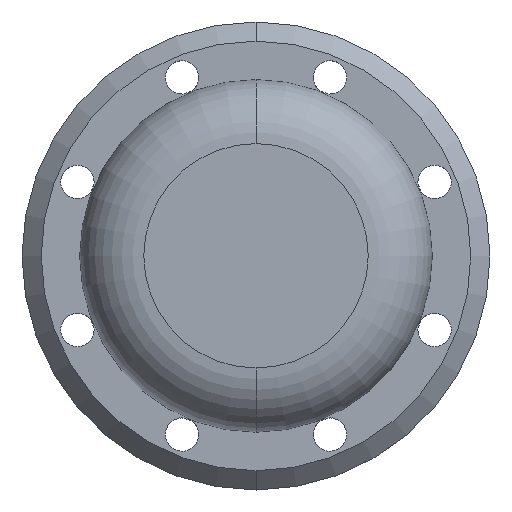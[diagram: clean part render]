
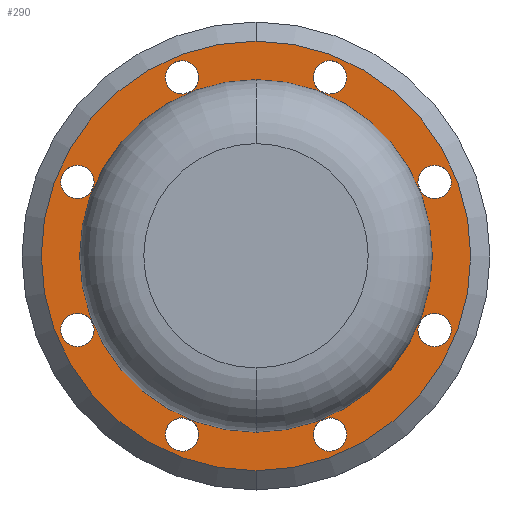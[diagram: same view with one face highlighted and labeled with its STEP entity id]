
A CAD part, top view. The second image highlights one B-rep face of the part: STEP entity #290.
In plain terms, the highlighted planar face has unit normal (0, 0, 1).
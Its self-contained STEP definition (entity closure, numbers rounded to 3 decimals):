
#60=FACE_BOUND('',#503,.F.);
#61=FACE_BOUND('',#504,.F.);
#62=FACE_BOUND('',#505,.F.);
#63=FACE_BOUND('',#506,.F.);
#64=FACE_BOUND('',#507,.F.);
#65=FACE_BOUND('',#508,.F.);
#66=FACE_BOUND('',#509,.F.);
#67=FACE_BOUND('',#510,.F.);
#68=FACE_BOUND('',#511,.F.);
#83=PLANE('',#2597);
#290=ADVANCED_FACE('',(#60,#61,#62,#63,#64,#65,#66,#67,#68,#394),#83,.T.);
#394=FACE_OUTER_BOUND('',#512,.F.);
#503=EDGE_LOOP('',(#687,#688));
#504=EDGE_LOOP('',(#689,#690));
#505=EDGE_LOOP('',(#691,#692));
#506=EDGE_LOOP('',(#693,#694));
#507=EDGE_LOOP('',(#695,#696));
#508=EDGE_LOOP('',(#697,#698));
#509=EDGE_LOOP('',(#699,#700));
#510=EDGE_LOOP('',(#701,#702));
#511=EDGE_LOOP('',(#703,#704));
#512=EDGE_LOOP('',(#705,#706));
#687=ORIENTED_EDGE('',*,*,#1940,.T.);
#688=ORIENTED_EDGE('',*,*,#1937,.T.);
#689=ORIENTED_EDGE('',*,*,#1954,.T.);
#690=ORIENTED_EDGE('',*,*,#1951,.T.);
#691=ORIENTED_EDGE('',*,*,#1968,.T.);
#692=ORIENTED_EDGE('',*,*,#1965,.T.);
#693=ORIENTED_EDGE('',*,*,#1982,.T.);
#694=ORIENTED_EDGE('',*,*,#1979,.T.);
#695=ORIENTED_EDGE('',*,*,#1904,.T.);
#696=ORIENTED_EDGE('',*,*,#1927,.T.);
#697=ORIENTED_EDGE('',*,*,#1975,.T.);
#698=ORIENTED_EDGE('',*,*,#1972,.T.);
#699=ORIENTED_EDGE('',*,*,#1961,.T.);
#700=ORIENTED_EDGE('',*,*,#1958,.T.);
#701=ORIENTED_EDGE('',*,*,#1947,.T.);
#702=ORIENTED_EDGE('',*,*,#1944,.T.);
#703=ORIENTED_EDGE('',*,*,#1933,.T.);
#704=ORIENTED_EDGE('',*,*,#1930,.T.);
#705=ORIENTED_EDGE('',*,*,#2008,.F.);
#706=ORIENTED_EDGE('',*,*,#1990,.F.);
#1904=EDGE_CURVE('',#2409,#2408,#2142,.T.);
#1927=EDGE_CURVE('',#2408,#2409,#2159,.T.);
#1930=EDGE_CURVE('',#2393,#2392,#2162,.T.);
#1933=EDGE_CURVE('',#2392,#2393,#2165,.T.);
#1937=EDGE_CURVE('',#2386,#2385,#2169,.T.);
#1940=EDGE_CURVE('',#2385,#2386,#2172,.T.);
#1944=EDGE_CURVE('',#2380,#2379,#2176,.T.);
#1947=EDGE_CURVE('',#2379,#2380,#2179,.T.);
#1951=EDGE_CURVE('',#2374,#2373,#2183,.T.);
#1954=EDGE_CURVE('',#2373,#2374,#2186,.T.);
#1958=EDGE_CURVE('',#2368,#2367,#2190,.T.);
#1961=EDGE_CURVE('',#2367,#2368,#2193,.T.);
#1965=EDGE_CURVE('',#2361,#2360,#2197,.T.);
#1968=EDGE_CURVE('',#2360,#2361,#2200,.T.);
#1972=EDGE_CURVE('',#2355,#2354,#2204,.T.);
#1975=EDGE_CURVE('',#2354,#2355,#2207,.T.);
#1979=EDGE_CURVE('',#2349,#2348,#2211,.T.);
#1982=EDGE_CURVE('',#2348,#2349,#2214,.T.);
#1990=EDGE_CURVE('',#2339,#2338,#2222,.T.);
#2008=EDGE_CURVE('',#2338,#2339,#2230,.T.);
#2142=CIRCLE('',#2454,27.5);
#2159=CIRCLE('',#2471,27.5);
#2162=CIRCLE('',#2474,2.6);
#2165=CIRCLE('',#2477,2.6);
#2169=CIRCLE('',#2481,2.6);
#2172=CIRCLE('',#2484,2.6);
#2176=CIRCLE('',#2488,2.6);
#2179=CIRCLE('',#2491,2.6);
#2183=CIRCLE('',#2495,2.6);
#2186=CIRCLE('',#2498,2.6);
#2190=CIRCLE('',#2502,2.6);
#2193=CIRCLE('',#2505,2.6);
#2197=CIRCLE('',#2509,2.6);
#2200=CIRCLE('',#2512,2.6);
#2204=CIRCLE('',#2516,2.6);
#2207=CIRCLE('',#2519,2.6);
#2211=CIRCLE('',#2523,2.6);
#2214=CIRCLE('',#2526,2.6);
#2222=CIRCLE('',#2534,33.5);
#2230=CIRCLE('',#2542,33.5);
#2338=VERTEX_POINT('',#3382);
#2339=VERTEX_POINT('',#3383);
#2348=VERTEX_POINT('',#3392);
#2349=VERTEX_POINT('',#3393);
#2354=VERTEX_POINT('',#3398);
#2355=VERTEX_POINT('',#3399);
#2360=VERTEX_POINT('',#3404);
#2361=VERTEX_POINT('',#3405);
#2367=VERTEX_POINT('',#3411);
#2368=VERTEX_POINT('',#3412);
#2373=VERTEX_POINT('',#3417);
#2374=VERTEX_POINT('',#3418);
#2379=VERTEX_POINT('',#3423);
#2380=VERTEX_POINT('',#3424);
#2385=VERTEX_POINT('',#3429);
#2386=VERTEX_POINT('',#3430);
#2392=VERTEX_POINT('',#3436);
#2393=VERTEX_POINT('',#3437);
#2408=VERTEX_POINT('',#3452);
#2409=VERTEX_POINT('',#3453);
#2454=AXIS2_PLACEMENT_3D('',#3464,#2733,#2734);
#2471=AXIS2_PLACEMENT_3D('',#3487,#2773,#2774);
#2474=AXIS2_PLACEMENT_3D('',#3490,#2779,#2780);
#2477=AXIS2_PLACEMENT_3D('',#3493,#2785,#2786);
#2481=AXIS2_PLACEMENT_3D('',#3497,#2793,#2794);
#2484=AXIS2_PLACEMENT_3D('',#3500,#2799,#2800);
#2488=AXIS2_PLACEMENT_3D('',#3504,#2807,#2808);
#2491=AXIS2_PLACEMENT_3D('',#3507,#2813,#2814);
#2495=AXIS2_PLACEMENT_3D('',#3511,#2821,#2822);
#2498=AXIS2_PLACEMENT_3D('',#3514,#2827,#2828);
#2502=AXIS2_PLACEMENT_3D('',#3518,#2835,#2836);
#2505=AXIS2_PLACEMENT_3D('',#3521,#2841,#2842);
#2509=AXIS2_PLACEMENT_3D('',#3525,#2849,#2850);
#2512=AXIS2_PLACEMENT_3D('',#3528,#2855,#2856);
#2516=AXIS2_PLACEMENT_3D('',#3532,#2863,#2864);
#2519=AXIS2_PLACEMENT_3D('',#3535,#2869,#2870);
#2523=AXIS2_PLACEMENT_3D('',#3539,#2877,#2878);
#2526=AXIS2_PLACEMENT_3D('',#3542,#2883,#2884);
#2534=AXIS2_PLACEMENT_3D('',#3550,#2899,#2900);
#2542=AXIS2_PLACEMENT_3D('',#3568,#2925,#2926);
#2597=AXIS2_PLACEMENT_3D('',#3657,#3069,#3070);
#2733=DIRECTION('',(0.,0.,1.));
#2734=DIRECTION('',(0.,1.,0.));
#2773=DIRECTION('',(0.,0.,1.));
#2774=DIRECTION('',(0.,-1.,0.));
#2779=DIRECTION('',(0.,0.,1.));
#2780=DIRECTION('',(-0.924,0.383,0.));
#2785=DIRECTION('',(0.,0.,1.));
#2786=DIRECTION('',(0.924,-0.383,0.));
#2793=DIRECTION('',(0.,0.,1.));
#2794=DIRECTION('',(-0.383,0.924,0.));
#2799=DIRECTION('',(0.,0.,1.));
#2800=DIRECTION('',(0.383,-0.924,0.));
#2807=DIRECTION('',(0.,0.,1.));
#2808=DIRECTION('',(0.383,0.924,0.));
#2813=DIRECTION('',(0.,0.,1.));
#2814=DIRECTION('',(-0.383,-0.924,0.));
#2821=DIRECTION('',(0.,0.,1.));
#2822=DIRECTION('',(0.924,0.383,0.));
#2827=DIRECTION('',(0.,0.,1.));
#2828=DIRECTION('',(-0.924,-0.383,0.));
#2835=DIRECTION('',(0.,0.,1.));
#2836=DIRECTION('',(0.924,-0.383,0.));
#2841=DIRECTION('',(0.,0.,1.));
#2842=DIRECTION('',(-0.924,0.383,0.));
#2849=DIRECTION('',(0.,0.,1.));
#2850=DIRECTION('',(0.383,-0.924,0.));
#2855=DIRECTION('',(0.,0.,1.));
#2856=DIRECTION('',(-0.383,0.924,0.));
#2863=DIRECTION('',(0.,0.,1.));
#2864=DIRECTION('',(-0.383,-0.924,0.));
#2869=DIRECTION('',(0.,0.,1.));
#2870=DIRECTION('',(0.383,0.924,0.));
#2877=DIRECTION('',(0.,0.,1.));
#2878=DIRECTION('',(-0.924,-0.383,0.));
#2883=DIRECTION('',(0.,0.,1.));
#2884=DIRECTION('',(0.924,0.383,0.));
#2899=DIRECTION('',(0.,0.,1.));
#2900=DIRECTION('',(0.,-1.,0.));
#2925=DIRECTION('',(0.,0.,1.));
#2926=DIRECTION('',(0.,1.,0.));
#3069=DIRECTION('',(0.,0.,1.));
#3070=DIRECTION('',(1.,0.,0.));
#3382=CARTESIAN_POINT('',(284.375,452.752,628.584));
#3383=CARTESIAN_POINT('',(284.375,385.752,628.584));
#3392=CARTESIAN_POINT('',(298.315,392.392,628.584));
#3393=CARTESIAN_POINT('',(293.511,390.402,628.584));
#3398=CARTESIAN_POINT('',(313.225,410.116,628.584));
#3399=CARTESIAN_POINT('',(311.235,405.312,628.584));
#3404=CARTESIAN_POINT('',(311.235,433.192,628.584));
#3405=CARTESIAN_POINT('',(313.225,428.388,628.584));
#3411=CARTESIAN_POINT('',(293.511,448.102,628.584));
#3412=CARTESIAN_POINT('',(298.315,446.112,628.584));
#3417=CARTESIAN_POINT('',(270.435,446.112,628.584));
#3418=CARTESIAN_POINT('',(275.239,448.102,628.584));
#3423=CARTESIAN_POINT('',(255.525,428.388,628.584));
#3424=CARTESIAN_POINT('',(257.515,433.192,628.584));
#3429=CARTESIAN_POINT('',(257.515,405.312,628.584));
#3430=CARTESIAN_POINT('',(255.525,410.116,628.584));
#3436=CARTESIAN_POINT('',(275.239,390.402,628.584));
#3437=CARTESIAN_POINT('',(270.435,392.392,628.584));
#3452=CARTESIAN_POINT('',(284.375,391.752,628.584));
#3453=CARTESIAN_POINT('',(284.375,446.752,628.584));
#3464=CARTESIAN_POINT('',(284.375,419.252,628.584));
#3487=CARTESIAN_POINT('',(284.375,419.252,628.584));
#3490=CARTESIAN_POINT('',(272.837,391.397,628.584));
#3493=CARTESIAN_POINT('',(272.837,391.397,628.584));
#3497=CARTESIAN_POINT('',(256.52,407.714,628.584));
#3500=CARTESIAN_POINT('',(256.52,407.714,628.584));
#3504=CARTESIAN_POINT('',(256.52,430.79,628.584));
#3507=CARTESIAN_POINT('',(256.52,430.79,628.584));
#3511=CARTESIAN_POINT('',(272.837,447.107,628.584));
#3514=CARTESIAN_POINT('',(272.837,447.107,628.584));
#3518=CARTESIAN_POINT('',(295.913,447.107,628.584));
#3521=CARTESIAN_POINT('',(295.913,447.107,628.584));
#3525=CARTESIAN_POINT('',(312.23,430.79,628.584));
#3528=CARTESIAN_POINT('',(312.23,430.79,628.584));
#3532=CARTESIAN_POINT('',(312.23,407.714,628.584));
#3535=CARTESIAN_POINT('',(312.23,407.714,628.584));
#3539=CARTESIAN_POINT('',(295.913,391.397,628.584));
#3542=CARTESIAN_POINT('',(295.913,391.397,628.584));
#3550=CARTESIAN_POINT('',(284.375,419.252,628.584));
#3568=CARTESIAN_POINT('',(284.375,419.252,628.584));
#3657=CARTESIAN_POINT('',(250.205,385.082,628.584));
